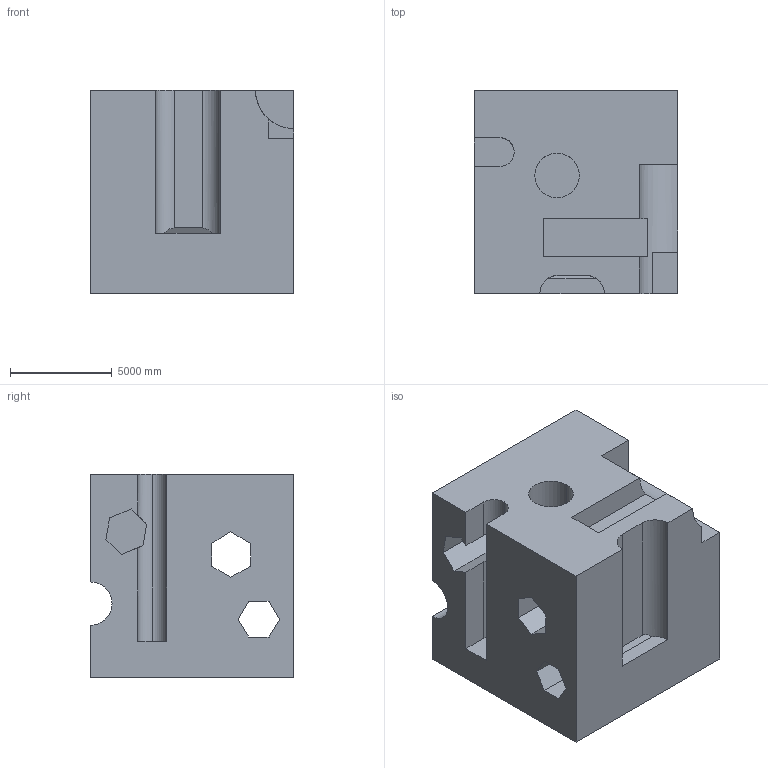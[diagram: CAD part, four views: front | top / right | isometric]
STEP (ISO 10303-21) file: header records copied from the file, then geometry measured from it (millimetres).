
FILE_DESCRIPTION (( 'STEP AP203' ), '1' );
FILE_NAME ('199.STEP', '2022-08-31T12:25:23', ( 'user' ), ( '' ), 'SwSTEP 2.0', 'SolidWorks 2021', '' );
FILE_SCHEMA (( 'CONFIG_CONTROL_DESIGN' ));
Length unit declared in the file: centimetre
Products named in the file (1): 199
Bounding box: 10000 x 10000 x 10000 mm (x, y, z)
Volume: 815424822640.6 mm3; surface area: 840069393.9 mm2
Topology: 1 solids, 1 shells, 49 faces, 141 edges, 94 vertices
Faces by surface type: plane 41, cylinder 8
Entity records: 1683 total; most frequent: CARTESIAN_POINT 300, ORIENTED_EDGE 282, DIRECTION 255, EDGE_CURVE 141, VECTOR 117, LINE 117, VERTEX_POINT 94, AXIS2_PLACEMENT_3D 69
